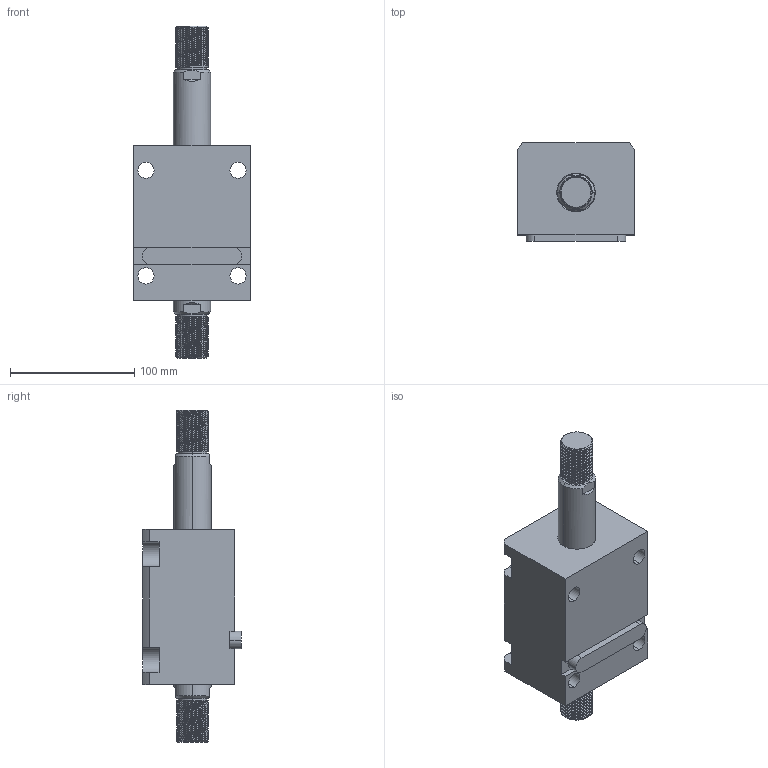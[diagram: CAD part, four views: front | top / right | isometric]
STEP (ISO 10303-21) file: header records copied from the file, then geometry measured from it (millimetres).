
FILE_DESCRIPTION (( 'STEP AP203' ), '1' );
FILE_NAME ('CHTB-LW50-50W.STEP', '2018-05-18T07:59:51', ( '' ), ( '' ), 'SwSTEP 2.0', 'SolidWorks 2015', '' );
FILE_SCHEMA (( 'CONFIG_CONTROL_DESIGN' ));
Length unit declared in the file: millimetre
Products named in the file (4): CHTB-LW50-50W; CHTM-SDMA50QG; 掛极LW50-50W; 活塞杆LW50-50W
Assembly tree (3 placements, depth 2):
  CHTB-LW50-50W
    掛极LW50-50W
    活塞杆LW50-50W
    CHTM-SDMA50QG
Bounding box: 94 x 79 x 267 mm (x, y, z)
Volume: 836702.7 mm3; surface area: 133926.6 mm2
Topology: 3 solids, 3 shells, 310 faces, 854 edges, 568 vertices
Faces by surface type: cylinder 186, plane 63, cone 27, bspline 18, torus 16
Entity records: 19510 total; most frequent: CARTESIAN_POINT 11940, ORIENTED_EDGE 1700, DIRECTION 1310, EDGE_CURVE 850, VERTEX_POINT 568, AXIS2_PLACEMENT_3D 503, EDGE_LOOP 348, ADVANCED_FACE 310
